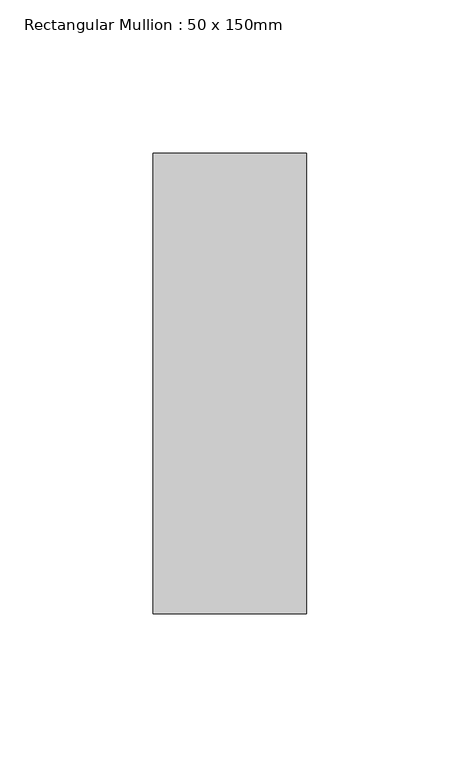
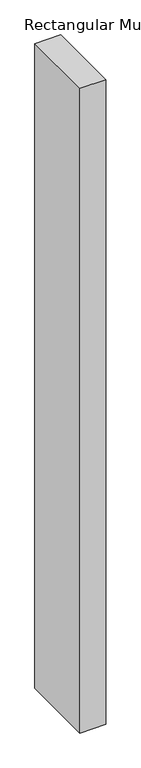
"""IFC4 building model written with IfcOpenShell, lengths in millimetres: member geometry, Rectangular Mullion : 50 x 150mm."""

import ifcopenshell
import ifcopenshell.guid

model = None  # the IFC model being written
_history = None  # IfcOwnerHistory: only IFC2X3 demands one
_inside = {}  # id of a spatial element -> (the spatial element, [elements in it])
_under = {}  # id of a project, library or spatial element -> (it, [spatial elements below it])
_declared = {}  # id of a project -> (the project, [libraries it declares])
_typed = {}  # id of a type object -> (the type object, [elements of that type])
_made_of = {}  # id of a material, layer set ... -> (it, [elements and type objects made of it])


def new_model(schema):
    """Start an empty IFC model of exactly this schema.

    Asked for "IFC4X3", IfcOpenShell would pick the latest addendum, in which some entities
    have other attributes; the version numbers below select the first issue.
    IFC2X3 requires an IfcOwnerHistory on every rooted entity: one is made here for all.
    """
    global model, _history
    if schema == "IFC4X3":
        model = ifcopenshell.file(schema_version=(4, 3, 0, 0))
    else:
        model = ifcopenshell.file(schema=schema)
    _inside.clear()
    _under.clear()
    _declared.clear()
    _typed.clear()
    _made_of.clear()
    _history = None
    if model.schema == "IFC2X3":
        org = make("IfcOrganization", Name="unknown")
        user = make(
            "IfcPersonAndOrganization",
            ThePerson=make("IfcPerson", FamilyName="unknown"),
            TheOrganization=org,
        )
        app = make(
            "IfcApplication",
            ApplicationDeveloper=org,
            Version="unknown",
            ApplicationFullName="unknown",
            ApplicationIdentifier="unknown",
        )
        _history = make(
            "IfcOwnerHistory",
            OwningUser=user,
            OwningApplication=app,
            ChangeAction="ADDED",
            CreationDate=0,
        )
    return model


def make(cls, **values):
    """One entity of the class cls with the attributes given. An attribute that is None is left unset."""
    return model.create_entity(
        cls, **{name: value for name, value in values.items() if value is not None}
    )


def rooted(cls, **values):
    """An entity with a GlobalId (a new one), such as an element, a storey or a relation."""
    return make(cls, GlobalId=ifcopenshell.guid.new(), OwnerHistory=_history, **values)


def si_unit(unit_type, name, prefix=None):
    """IfcSIUnit, for example si_unit("LENGTHUNIT", "METRE", prefix="MILLI")."""
    return make("IfcSIUnit", UnitType=unit_type, Prefix=prefix, Name=name)


def assignment(units):
    """IfcUnitAssignment: the units of a project."""
    return None if units is None else make("IfcUnitAssignment", Units=units)


def point(xyz):
    """IfcCartesianPoint."""
    return None if xyz is None else make("IfcCartesianPoint", Coordinates=xyz)


def direction(xyz):
    """IfcDirection."""
    return None if xyz is None else make("IfcDirection", DirectionRatios=xyz)


def frame(location, z_axis=None, x_axis=None):
    """IfcAxis2Placement3D, a coordinate frame: its origin and axes. An axis left out is left unset."""
    return make(
        "IfcAxis2Placement3D",
        Location=point(location),
        Axis=direction(z_axis),
        RefDirection=direction(x_axis),
    )


def origin():
    """The frame at (0, 0, 0) with its axes left unset."""
    return frame((0.0, 0.0, 0.0))


def place(relative_to, where):
    """IfcLocalPlacement: puts the frame where relative to a parent placement (None: the world)."""
    return make(
        "IfcLocalPlacement", PlacementRelTo=relative_to, RelativePlacement=where
    )


def context(
    kind, dimensions, precision=None, world=None, true_north=None, identifier=None
):
    """IfcGeometricRepresentationContext, for example the 3D "Model" context."""
    return make(
        "IfcGeometricRepresentationContext",
        ContextIdentifier=identifier,
        ContextType=kind,
        CoordinateSpaceDimension=dimensions,
        Precision=precision,
        WorldCoordinateSystem=world,
        TrueNorth=true_north,
    )


def project(units=None, contexts=None):
    """IfcProject with its units and contexts."""
    return rooted(
        "IfcProject",
        Name="project",
        RepresentationContexts=contexts,
        UnitsInContext=assignment(units),
    )


def spatial(cls, under=None, at=None, **own):
    """A site, building, storey or space (cls), placed at a placement, below another one or the project."""
    s = rooted(cls, ObjectPlacement=at, **own)
    if under is not None:
        _under.setdefault(under.id(), (under, []))[1].append(s)
    return s


def polyline(points):
    """IfcPolyline through the points."""
    return make("IfcPolyline", Points=[point(p) for p in points])


def outline(outer, holes=None, kind="AREA"):
    """IfcArbitraryClosedProfileDef: a profile drawn as a closed curve; with holes, ...WithVoids."""
    if holes is None:
        return make("IfcArbitraryClosedProfileDef", ProfileType=kind, OuterCurve=outer)
    return make(
        "IfcArbitraryProfileDefWithVoids",
        ProfileType=kind,
        OuterCurve=outer,
        InnerCurves=holes,
    )


def extrude(swept, where, along, depth):
    """IfcExtrudedAreaSolid: the profile swept, set in the frame where, extruded along a direction by depth."""
    return make(
        "IfcExtrudedAreaSolid",
        SweptArea=swept,
        Position=where,
        ExtrudedDirection=direction(along),
        Depth=depth,
    )


def shape(context_of_items, identifier, shape_type, items):
    """IfcShapeRepresentation: the items that make up one representation, for example the "Body"."""
    return make(
        "IfcShapeRepresentation",
        ContextOfItems=context_of_items,
        RepresentationIdentifier=identifier,
        RepresentationType=shape_type,
        Items=items,
    )


def source(mapping_origin, context_of_items, identifier, shape_type, items):
    """IfcRepresentationMap: a shape defined once, which mapped items show again and again."""
    return make(
        "IfcRepresentationMap",
        MappingOrigin=mapping_origin,
        MappedRepresentation=shape(context_of_items, identifier, shape_type, items),
    )


def transform(
    local_origin,
    x_axis=None,
    y_axis=None,
    z_axis=None,
    scale=None,
    scale2=None,
    scale3=None,
    uniform=True,
):
    """IfcCartesianTransformationOperator3D, or its non-uniform kind. x_axis, y_axis, z_axis: its Axis1, 2, 3."""
    if uniform:
        return make(
            "IfcCartesianTransformationOperator3D",
            Axis1=direction(x_axis),
            Axis2=direction(y_axis),
            LocalOrigin=point(local_origin),
            Scale=scale,
            Axis3=direction(z_axis),
        )
    return make(
        "IfcCartesianTransformationOperator3DnonUniform",
        Axis1=direction(x_axis),
        Axis2=direction(y_axis),
        LocalOrigin=point(local_origin),
        Scale=scale,
        Axis3=direction(z_axis),
        Scale2=scale2,
        Scale3=scale3,
    )


def mapped(mapping_source, mapping_target):
    """IfcMappedItem: shows the shape of a source again, moved by a transform."""
    return make(
        "IfcMappedItem", MappingSource=mapping_source, MappingTarget=mapping_target
    )


def made_of(thing, what):
    """Note that an element or type object is made of a material, layer set ...; save() writes the relation."""
    if what is not None:
        _made_of.setdefault(what.id(), (what, []))[1].append(thing)
    return thing


def element(
    cls,
    number,
    at=None,
    inside=None,
    cuts=None,
    type_object=None,
    material=None,
    context=None,
    identifier="Body",
    shape_type=None,
    held_by="IfcProductDefinitionShape",
    body=None,
    shapes=None,
    **own,
):
    """One element of the class cls, such as IfcWall. Its Tag is "e" and its number.

    at: its placement. inside: the storey or other place that contains it. cuts: it is an
    opening in that element (IfcRelVoidsElement). A single representation is given by context,
    identifier, shape_type and body (its items); several are given by shapes. held_by: the class
    of the entity that holds the representations. save() writes the other relations.
    """
    e = rooted(cls, Tag="e%d" % number, ObjectPlacement=at, **own)
    if body is not None:
        shapes = [shape(context, identifier, shape_type, body)]
    if shapes is not None:
        e.Representation = make(held_by, Representations=shapes)
    if inside is not None:
        _inside.setdefault(inside.id(), (inside, []))[1].append(e)
    if cuts is not None:
        rooted(
            "IfcRelVoidsElement", RelatingBuildingElement=cuts, RelatedOpeningElement=e
        )
    if type_object is not None:
        _typed.setdefault(type_object.id(), (type_object, []))[1].append(e)
    return made_of(e, material)


def aggregate(whole, parts):
    """IfcRelAggregates: a whole, such as a stair, and the parts it consists of."""
    return rooted("IfcRelAggregates", RelatingObject=whole, RelatedObjects=parts)


def save(model, path):
    """Write the relations noted so far, then the file.

    IfcRelAggregates (storeys below a building ...), IfcRelContainedInSpatialStructure (elements
    in a storey), IfcRelDefinesByType, IfcRelAssociatesMaterial and IfcRelDeclares: one each for
    every whole, place, type object, material and project.
    """
    for whole, parts in _under.values():
        aggregate(whole, parts)
    for where, things in _inside.values():
        rooted(
            "IfcRelContainedInSpatialStructure",
            RelatedElements=things,
            RelatingStructure=where,
        )
    for kind, things in _typed.values():
        rooted("IfcRelDefinesByType", RelatedObjects=things, RelatingType=kind)
    for what, things in _made_of.values():
        rooted("IfcRelAssociatesMaterial", RelatedObjects=things, RelatingMaterial=what)
    for by, libraries in _declared.values():
        rooted("IfcRelDeclares", RelatingContext=by, RelatedDefinitions=libraries)
    model.write(path)


def rectangular_mullion_50_x_150mm_5291872e(model_context):
    return source(origin(), model_context, "Body", "SweptSolid", [
        extrude(outline(polyline([(0.0, 75.0), (0.0, -75.0), (-50.0, -75.0), (-50.0, 75.0), (0.0, 75.0)])), frame((0.0, 0.0, -1310.0000002), z_axis=(0.0, 0.0, 1.0), x_axis=(1.0, 0.0, 0.0)), (0.0, 0.0, 1.0), 1310.0000002),
    ])


if __name__ == "__main__":
    model = new_model("IFC4")
    model_context = context("Model", 3, world=origin())
    ifc_project = project(units=[si_unit("LENGTHUNIT", "METRE", prefix="MILLI")], contexts=[model_context])
    site = spatial("IfcSite", under=ifc_project)
    building = spatial("IfcBuilding", under=site)
    placement = place(None, origin())
    rectangular_mullion_50_x_150mm_shape = rectangular_mullion_50_x_150mm_5291872e(model_context)
    element("IfcMember", 1, ObjectType="Rectangular Mullion : 50 x 150mm", at=placement, inside=building, context=model_context, shape_type="MappedRepresentation", body=[
        mapped(rectangular_mullion_50_x_150mm_shape, transform((0.0, 0.0, 0.0), x_axis=(1.0, 0.0, 0.0), y_axis=(0.0, 1.0, 0.0), z_axis=(0.0, 0.0, 1.0))),
    ])
    save(model, "model.ifc")
